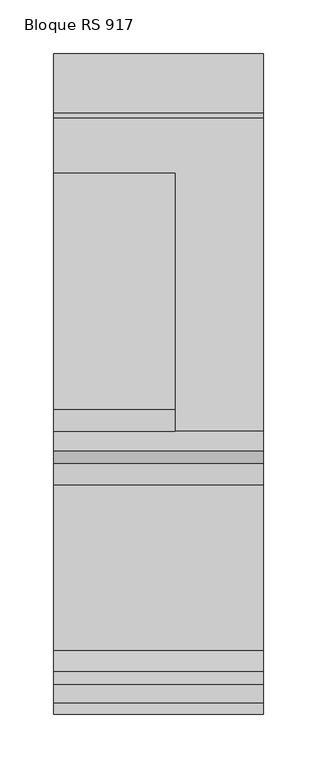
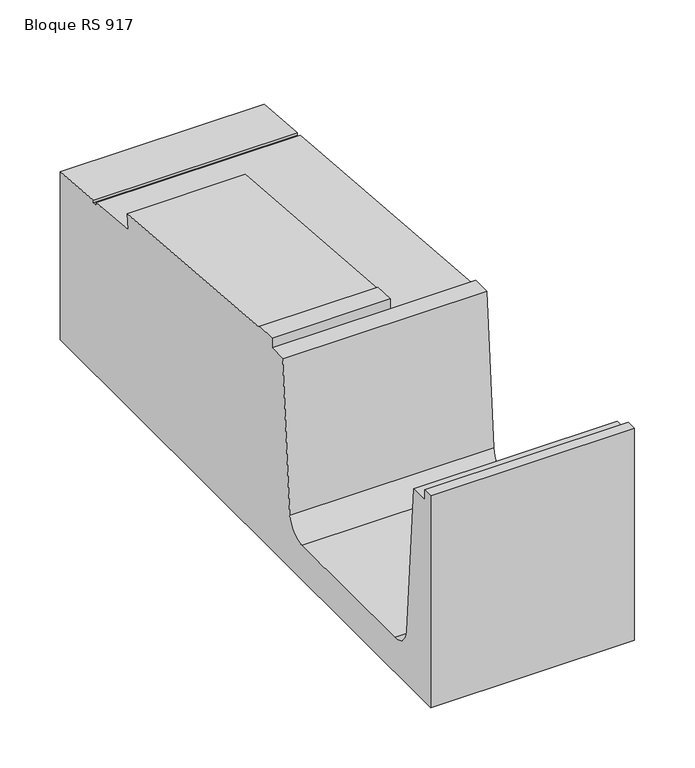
"""IFC4 building model written with IfcOpenShell, lengths in millimetres: proxy geometry, ROSA GRES_RS 917 : Bloque RS 917."""

import ifcopenshell
import ifcopenshell.guid

model = None  # the IFC model being written
_history = None  # IfcOwnerHistory: only IFC2X3 demands one
_inside = {}  # id of a spatial element -> (the spatial element, [elements in it])
_under = {}  # id of a project, library or spatial element -> (it, [spatial elements below it])
_declared = {}  # id of a project -> (the project, [libraries it declares])
_typed = {}  # id of a type object -> (the type object, [elements of that type])
_made_of = {}  # id of a material, layer set ... -> (it, [elements and type objects made of it])


def new_model(schema):
    """Start an empty IFC model of exactly this schema.

    Asked for "IFC4X3", IfcOpenShell would pick the latest addendum, in which some entities
    have other attributes; the version numbers below select the first issue.
    IFC2X3 requires an IfcOwnerHistory on every rooted entity: one is made here for all.
    """
    global model, _history
    if schema == "IFC4X3":
        model = ifcopenshell.file(schema_version=(4, 3, 0, 0))
    else:
        model = ifcopenshell.file(schema=schema)
    _inside.clear()
    _under.clear()
    _declared.clear()
    _typed.clear()
    _made_of.clear()
    _history = None
    if model.schema == "IFC2X3":
        org = make("IfcOrganization", Name="unknown")
        user = make(
            "IfcPersonAndOrganization",
            ThePerson=make("IfcPerson", FamilyName="unknown"),
            TheOrganization=org,
        )
        app = make(
            "IfcApplication",
            ApplicationDeveloper=org,
            Version="unknown",
            ApplicationFullName="unknown",
            ApplicationIdentifier="unknown",
        )
        _history = make(
            "IfcOwnerHistory",
            OwningUser=user,
            OwningApplication=app,
            ChangeAction="ADDED",
            CreationDate=0,
        )
    return model


def make(cls, **values):
    """One entity of the class cls with the attributes given. An attribute that is None is left unset."""
    return model.create_entity(
        cls, **{name: value for name, value in values.items() if value is not None}
    )


def rooted(cls, **values):
    """An entity with a GlobalId (a new one), such as an element, a storey or a relation."""
    return make(cls, GlobalId=ifcopenshell.guid.new(), OwnerHistory=_history, **values)


def si_unit(unit_type, name, prefix=None):
    """IfcSIUnit, for example si_unit("LENGTHUNIT", "METRE", prefix="MILLI")."""
    return make("IfcSIUnit", UnitType=unit_type, Prefix=prefix, Name=name)


def assignment(units):
    """IfcUnitAssignment: the units of a project."""
    return None if units is None else make("IfcUnitAssignment", Units=units)


def point(xyz):
    """IfcCartesianPoint."""
    return None if xyz is None else make("IfcCartesianPoint", Coordinates=xyz)


def direction(xyz):
    """IfcDirection."""
    return None if xyz is None else make("IfcDirection", DirectionRatios=xyz)


def frame(location, z_axis=None, x_axis=None):
    """IfcAxis2Placement3D, a coordinate frame: its origin and axes. An axis left out is left unset."""
    return make(
        "IfcAxis2Placement3D",
        Location=point(location),
        Axis=direction(z_axis),
        RefDirection=direction(x_axis),
    )


def origin():
    """The frame at (0, 0, 0) with its axes left unset."""
    return frame((0.0, 0.0, 0.0))


def place(relative_to, where):
    """IfcLocalPlacement: puts the frame where relative to a parent placement (None: the world)."""
    return make(
        "IfcLocalPlacement", PlacementRelTo=relative_to, RelativePlacement=where
    )


def context(
    kind, dimensions, precision=None, world=None, true_north=None, identifier=None
):
    """IfcGeometricRepresentationContext, for example the 3D "Model" context."""
    return make(
        "IfcGeometricRepresentationContext",
        ContextIdentifier=identifier,
        ContextType=kind,
        CoordinateSpaceDimension=dimensions,
        Precision=precision,
        WorldCoordinateSystem=world,
        TrueNorth=true_north,
    )


def project(units=None, contexts=None):
    """IfcProject with its units and contexts."""
    return rooted(
        "IfcProject",
        Name="project",
        RepresentationContexts=contexts,
        UnitsInContext=assignment(units),
    )


def spatial(cls, under=None, at=None, **own):
    """A site, building, storey or space (cls), placed at a placement, below another one or the project."""
    s = rooted(cls, ObjectPlacement=at, **own)
    if under is not None:
        _under.setdefault(under.id(), (under, []))[1].append(s)
    return s


def polyline(points):
    """IfcPolyline through the points."""
    return make("IfcPolyline", Points=[point(p) for p in points])


def circle_curve(where, radius):
    """IfcCircle in the frame where."""
    return make("IfcCircle", Position=where, Radius=radius)


def shape(context_of_items, identifier, shape_type, items):
    """IfcShapeRepresentation: the items that make up one representation, for example the "Body"."""
    return make(
        "IfcShapeRepresentation",
        ContextOfItems=context_of_items,
        RepresentationIdentifier=identifier,
        RepresentationType=shape_type,
        Items=items,
    )


def source(mapping_origin, context_of_items, identifier, shape_type, items):
    """IfcRepresentationMap: a shape defined once, which mapped items show again and again."""
    return make(
        "IfcRepresentationMap",
        MappingOrigin=mapping_origin,
        MappedRepresentation=shape(context_of_items, identifier, shape_type, items),
    )


def transform(
    local_origin,
    x_axis=None,
    y_axis=None,
    z_axis=None,
    scale=None,
    scale2=None,
    scale3=None,
    uniform=True,
):
    """IfcCartesianTransformationOperator3D, or its non-uniform kind. x_axis, y_axis, z_axis: its Axis1, 2, 3."""
    if uniform:
        return make(
            "IfcCartesianTransformationOperator3D",
            Axis1=direction(x_axis),
            Axis2=direction(y_axis),
            LocalOrigin=point(local_origin),
            Scale=scale,
            Axis3=direction(z_axis),
        )
    return make(
        "IfcCartesianTransformationOperator3DnonUniform",
        Axis1=direction(x_axis),
        Axis2=direction(y_axis),
        LocalOrigin=point(local_origin),
        Scale=scale,
        Axis3=direction(z_axis),
        Scale2=scale2,
        Scale3=scale3,
    )


def mapped(mapping_source, mapping_target):
    """IfcMappedItem: shows the shape of a source again, moved by a transform."""
    return make(
        "IfcMappedItem", MappingSource=mapping_source, MappingTarget=mapping_target
    )


def made_of(thing, what):
    """Note that an element or type object is made of a material, layer set ...; save() writes the relation."""
    if what is not None:
        _made_of.setdefault(what.id(), (what, []))[1].append(thing)
    return thing


def element(
    cls,
    number,
    at=None,
    inside=None,
    cuts=None,
    type_object=None,
    material=None,
    context=None,
    identifier="Body",
    shape_type=None,
    held_by="IfcProductDefinitionShape",
    body=None,
    shapes=None,
    **own,
):
    """One element of the class cls, such as IfcWall. Its Tag is "e" and its number.

    at: its placement. inside: the storey or other place that contains it. cuts: it is an
    opening in that element (IfcRelVoidsElement). A single representation is given by context,
    identifier, shape_type and body (its items); several are given by shapes. held_by: the class
    of the entity that holds the representations. save() writes the other relations.
    """
    e = rooted(cls, Tag="e%d" % number, ObjectPlacement=at, **own)
    if body is not None:
        shapes = [shape(context, identifier, shape_type, body)]
    if shapes is not None:
        e.Representation = make(held_by, Representations=shapes)
    if inside is not None:
        _inside.setdefault(inside.id(), (inside, []))[1].append(e)
    if cuts is not None:
        rooted(
            "IfcRelVoidsElement", RelatingBuildingElement=cuts, RelatedOpeningElement=e
        )
    if type_object is not None:
        _typed.setdefault(type_object.id(), (type_object, []))[1].append(e)
    return made_of(e, material)


def aggregate(whole, parts):
    """IfcRelAggregates: a whole, such as a stair, and the parts it consists of."""
    return rooted("IfcRelAggregates", RelatingObject=whole, RelatedObjects=parts)


def save(model, path):
    """Write the relations noted so far, then the file.

    IfcRelAggregates (storeys below a building ...), IfcRelContainedInSpatialStructure (elements
    in a storey), IfcRelDefinesByType, IfcRelAssociatesMaterial and IfcRelDeclares: one each for
    every whole, place, type object, material and project.
    """
    for whole, parts in _under.values():
        aggregate(whole, parts)
    for where, things in _inside.values():
        rooted(
            "IfcRelContainedInSpatialStructure",
            RelatedElements=things,
            RelatingStructure=where,
        )
    for kind, things in _typed.values():
        rooted("IfcRelDefinesByType", RelatedObjects=things, RelatingType=kind)
    for what, things in _made_of.values():
        rooted("IfcRelAssociatesMaterial", RelatedObjects=things, RelatingMaterial=what)
    for by, libraries in _declared.values():
        rooted("IfcRelDeclares", RelatingContext=by, RelatedDefinitions=libraries)
    model.write(path)


def plane_surface(at):
    """IfcPlane: the flat surface through the origin of the frame at, square to its z axis."""
    return make("IfcPlane", Position=at)


def revolved_surface(curve, axis_point, axis_direction):
    """IfcSurfaceOfRevolution: the curve turned about the line through axis_point along axis_direction."""
    return make(
        "IfcSurfaceOfRevolution",
        SweptCurve=make("IfcArbitraryOpenProfileDef", ProfileType="CURVE", Curve=curve),
        AxisPosition=make("IfcAxis1Placement", Location=point(axis_point), Axis=direction(axis_direction)),
    )


def advanced_brep(points, edges, surfaces, faces):
    """IfcAdvancedBrep: a solid bounded by faces that lie on surfaces and meet in shared edges.

    An edge is (start, end): straight between two places in points (the first is 0);
    or (start, end, curve); or (start, end, curve, False) where it runs against its curve.
    A face is (place in surfaces, loops), or (place, loops, False) where it looks against
    its surface's normal. A loop lists edges by number (the first is 1), with a minus sign
    where the edge is run from its end to its start. The first loop is the outer one.
    """
    corners = [point(p) for p in points]
    vertices = [make("IfcVertexPoint", VertexGeometry=c) for c in corners]
    made = []
    for start, end, *more in edges:
        made.append(
            make(
                "IfcEdgeCurve",
                EdgeStart=vertices[start],
                EdgeEnd=vertices[end],
                EdgeGeometry=more[0] if more else make("IfcPolyline", Points=[corners[start], corners[end]]),
                SameSense=more[1] if len(more) > 1 else True,
            )
        )
    hull = []
    for where, loops, *sense in faces:
        bounds = []
        for j, loop in enumerate(loops):
            ring = [make("IfcOrientedEdge", EdgeElement=made[abs(k) - 1], Orientation=k > 0) for k in loop]
            bounds.append(
                make(
                    "IfcFaceOuterBound" if j == 0 else "IfcFaceBound",
                    Bound=make("IfcEdgeLoop", EdgeList=ring),
                    Orientation=True,
                )
            )
        hull.append(make("IfcAdvancedFace", Bounds=bounds, FaceSurface=surfaces[where], SameSense=sense[0] if sense else True))
    return make("IfcAdvancedBrep", Outer=make("IfcClosedShell", CfsFaces=hull))


def bloque_rs_917_e40e730b(model_context):
    return source(origin(), model_context, "Body", "AdvancedBrep", [
        advanced_brep(
        [(0.0, -12.84, 171.9333029), (0.0, -12.84, 1.7539108), (0.0, -626.84, 1.7539108), (0.0, -626.84, 216.3460936), (0.0, -616.84, 216.3460936), (0.0, -616.84, 206.3460936), (0.0, -598.84, 206.3460936), (0.0, -587.1277538, 55.2086635), (0.0, -567.1875379, 36.7539108), (0.0, -413.4924621, 36.7539108), (0.0, -393.5522462, 55.2086635), (0.0, -381.84, 206.3460936), (0.0, -363.84, 206.3460936), (0.0, -363.84, 216.3460936), (0.0, -343.84, 216.3460936), (0.0, -343.84, 214.7181867), (0.0, -123.84, 196.8112099), (0.0, -125.1210611, 181.0724591), (0.0, -72.84, 176.8170239), (0.0, -72.84, 173.8170239), (0.0, -67.84, 173.8170239), (0.0, -67.84, 176.4100471), (195.0, -12.84, 171.9333029), (195.0, -67.84, 176.4100471), (195.0, -67.84, 173.8170239), (195.0, -72.84, 173.8170239), (195.0, -72.84, 176.8170239), (195.0, -363.84, 200.5030704), (195.0, -363.84, 206.3460936), (195.0, -381.84, 206.3460936), (195.0, -393.5522462, 55.2086635), (195.0, -413.4924621, 36.7539108), (195.0, -567.1875379, 36.7539108), (195.0, -587.1277538, 55.2086635), (195.0, -598.84, 206.3460936), (195.0, -616.84, 206.3460936), (195.0, -616.84, 216.3460936), (195.0, -626.84, 216.3460936), (195.0, -626.84, 1.7539108), (195.0, -12.84, 1.7539108), (113.0, -125.1210611, 181.0724591), (113.0, -363.84, 200.5030704), (113.0, -363.84, 206.3460936), (113.0, -123.84, 196.8112099), (113.0, -343.84, 214.7181867), (113.0, -343.84, 216.3460936), (113.0, -363.84, 216.3460936)],
        [
            (0, 1),
            (1, 2),
            (2, 3),
            (3, 4),
            (4, 5),
            (5, 6),
            (6, 7),
            (7, 8, circle_curve(frame((0.0, -567.1875379, 56.7539108), z_axis=(1.0, 0.0, 0.0), x_axis=(0.0, -1.0, 0.0)), 20.0)),
            (8, 9),
            (9, 10, circle_curve(frame((0.0, -413.4924621, 56.7539108), z_axis=(1.0, 0.0, 0.0), x_axis=(0.0, -1.0, 0.0)), 20.0)),
            (10, 11),
            (11, 12),
            (12, 13),
            (13, 14),
            (14, 15),
            (15, 16),
            (16, 17),
            (17, 18),
            (18, 19),
            (19, 20),
            (20, 21),
            (21, 0),
            (22, 23),
            (23, 24),
            (24, 25),
            (25, 26),
            (26, 27),
            (27, 28),
            (28, 29),
            (29, 30),
            (30, 31, circle_curve(frame((195.0, -413.4924621, 56.7539108), z_axis=(-1.0, 0.0, 0.0), x_axis=(0.0, -1.0, 0.0)), 20.0)),
            (31, 32),
            (32, 33, circle_curve(frame((195.0, -567.1875379, 56.7539108), z_axis=(-1.0, 0.0, 0.0), x_axis=(0.0, -1.0, 0.0)), 20.0)),
            (33, 34),
            (34, 35),
            (35, 36),
            (36, 37),
            (37, 38),
            (38, 39),
            (39, 22),
            (21, 23),
            (22, 0),
            (20, 24),
            (19, 25),
            (18, 26),
            (17, 40),
            (40, 41),
            (41, 27),
            (41, 42),
            (42, 28),
            (11, 29),
            (42, 12),
            (10, 30),
            (9, 31),
            (8, 32),
            (7, 33),
            (6, 34),
            (5, 35),
            (4, 36),
            (3, 37),
            (2, 38),
            (1, 39),
            (43, 44),
            (44, 45),
            (45, 46),
            (46, 42),
            (40, 43),
            (16, 43),
            (46, 13),
            (45, 14),
            (44, 15),
        ],
        [
            plane_surface(frame((0.0, 0.0, 0.0), z_axis=(-1.0, 0.0, 0.0), x_axis=(0.0, 0.0, 1.0))),
            plane_surface(frame((195.0, 0.0, 0.0), z_axis=(1.0, 0.0, 0.0), x_axis=(0.0, 0.0, 1.0))),
            plane_surface(frame((0.0, -12.84, 171.9333029), z_axis=(0.0, 0.0811270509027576, 0.9967037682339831), x_axis=(1.0, 0.0, 0.0))),
            plane_surface(frame((0.0, -67.84, 176.4100471), z_axis=(0.0, -1.0, 0.0), x_axis=(1.0, 0.0, 0.0))),
            plane_surface(frame((0.0, -67.84, 173.8170239), z_axis=(0.0, 0.0, 1.0), x_axis=(1.0, 0.0, 0.0))),
            plane_surface(frame((0.0, -72.84, 173.8170239), z_axis=(0.0, 1.0, 0.0), x_axis=(1.0, 0.0, 0.0))),
            plane_surface(frame((0.0, -72.84, 176.8170239), z_axis=(0.0, 0.08112705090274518, 0.9967037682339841), x_axis=(1.0, 0.0, 0.0))),
            plane_surface(frame((0.0, -363.84, 200.5030704), z_axis=(0.0, 1.0, 0.0), x_axis=(1.0, 0.0, 0.0))),
            plane_surface(frame((0.0, -363.84, 206.3460936), z_axis=(0.0, 0.0, 1.0), x_axis=(1.0, 0.0, 0.0))),
            plane_surface(frame((0.0, -381.84, 206.3460936), z_axis=(0.0, -0.9970107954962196, 0.07726236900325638), x_axis=(1.0, 0.0, 0.0))),
            revolved_surface(polyline([(195.0, -433.4924621, 56.7539108), (0.0, -433.4924621, 56.7539108)]), (0.0, -413.4924621, 56.7539108), (1.0, 0.0, 0.0)),
            plane_surface(frame((0.0, -413.4924621, 36.7539108), z_axis=(0.0, 0.0, 1.0), x_axis=(1.0, 0.0, 0.0))),
            revolved_surface(polyline([(195.0, -587.1875379, 56.7539108), (0.0, -587.1875379, 56.7539108)]), (0.0, -567.1875379, 56.7539108), (1.0, 0.0, 0.0)),
            plane_surface(frame((0.0, -587.1277538, 55.2086635), z_axis=(0.0, 0.99701079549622, 0.07726236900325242), x_axis=(1.0, 0.0, 0.0))),
            plane_surface(frame((0.0, -598.84, 206.3460936), z_axis=(0.0, 0.0, 1.0), x_axis=(1.0, 0.0, 0.0))),
            plane_surface(frame((0.0, -616.84, 206.3460936), z_axis=(0.0, 1.0, 0.0), x_axis=(1.0, 0.0, 0.0))),
            plane_surface(frame((0.0, -616.84, 216.3460936), z_axis=(0.0, 0.0, 1.0), x_axis=(1.0, 0.0, 0.0))),
            plane_surface(frame((0.0, -626.84, 216.3460936), z_axis=(0.0, -1.0, 0.0), x_axis=(1.0, 0.0, 0.0))),
            plane_surface(frame((0.0, -626.84, 1.7539108), z_axis=(0.0, 0.0, -1.0), x_axis=(1.0, 0.0, 0.0))),
            plane_surface(frame((0.0, -12.84, 1.7539108), z_axis=(0.0, 1.0, 0.0), x_axis=(1.0, 0.0, 0.0))),
            plane_surface(frame((113.0, 0.0, 0.0), z_axis=(1.0, 0.0, 0.0), x_axis=(0.0, 0.0, 1.0))),
            plane_surface(frame((113.0, -123.84, 196.8112099), z_axis=(0.0, 0.9967037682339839, -0.08112705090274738), x_axis=(-1.0, 0.0, 0.0))),
            plane_surface(frame((113.0, -363.84, 200.5030704), z_axis=(0.0, -1.0, 0.0), x_axis=(-1.0, 0.0, 0.0))),
            plane_surface(frame((113.0, -363.84, 216.3460936), z_axis=(0.0, 0.0, 1.0), x_axis=(-1.0, 0.0, 0.0))),
            plane_surface(frame((113.0, -343.84, 216.3460936), z_axis=(0.0, 1.0, 0.0), x_axis=(-1.0, 0.0, 0.0))),
            plane_surface(frame((113.0, -343.84, 214.7181867), z_axis=(0.0, 0.08112705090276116, 0.9967037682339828), x_axis=(-1.0, 0.0, 0.0))),
        ],
        [
            (0, [[1, 2, 3, 4, 5, 6, 7, 8, 9, 10, 11, 12, 13, 14, 15, 16, 17, 18, 19, 20, 21, 22]]),
            (1, [[23, 24, 25, 26, 27, 28, 29, 30, 31, 32, 33, 34, 35, 36, 37, 38, 39, 40]]),
            (2, [[41, -23, 42, -22]]),
            (3, [[43, -24, -41, -21]]),
            (4, [[44, -25, -43, -20]]),
            (5, [[45, -26, -44, -19]]),
            (6, [[-45, -18, 46, 47, 48, -27]]),
            (7, [[-48, 49, 50, -28]]),
            (8, [[51, -29, -50, 52, -12]]),
            (9, [[53, -30, -51, -11]]),
            (10, [[54, -31, -53, -10]]),
            (11, [[55, -32, -54, -9]]),
            (12, [[56, -33, -55, -8]]),
            (13, [[57, -34, -56, -7]]),
            (14, [[58, -35, -57, -6]]),
            (15, [[59, -36, -58, -5]]),
            (16, [[60, -37, -59, -4]]),
            (17, [[61, -38, -60, -3]]),
            (18, [[62, -39, -61, -2]]),
            (19, [[-42, -40, -62, -1]]),
            (20, [[63, 64, 65, 66, -49, -47, 67]]),
            (21, [[-46, -17, 68, -67]]),
            (22, [[-13, -52, -66, 69]]),
            (23, [[70, -14, -69, -65]]),
            (24, [[71, -15, -70, -64]]),
            (25, [[-68, -16, -71, -63]]),
        ],
    ),
    ])


if __name__ == "__main__":
    model = new_model("IFC4")
    model_context = context("Model", 3, world=origin())
    ifc_project = project(units=[si_unit("LENGTHUNIT", "METRE", prefix="MILLI")], contexts=[model_context])
    site = spatial("IfcSite", under=ifc_project)
    building = spatial("IfcBuilding", under=site)
    placement = place(None, origin())
    bloque_rs_917_shape = bloque_rs_917_e40e730b(model_context)
    element("IfcBuildingElementProxy", 1, Name="ROSA GRES_RS 917 : Bloque RS 917", ObjectType="ROSA GRES_RS 917 : Bloque RS 917", at=placement, inside=building, context=model_context, shape_type="MappedRepresentation", body=[
        mapped(bloque_rs_917_shape, transform((0.0, 0.0, 0.0), x_axis=(1.0, 0.0, 0.0), y_axis=(0.0, 1.0, 0.0), z_axis=(0.0, 0.0, 1.0))),
    ])
    save(model, "model.ifc")
